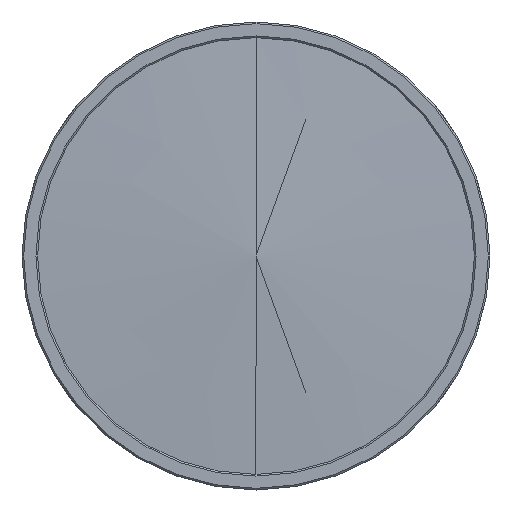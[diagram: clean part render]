
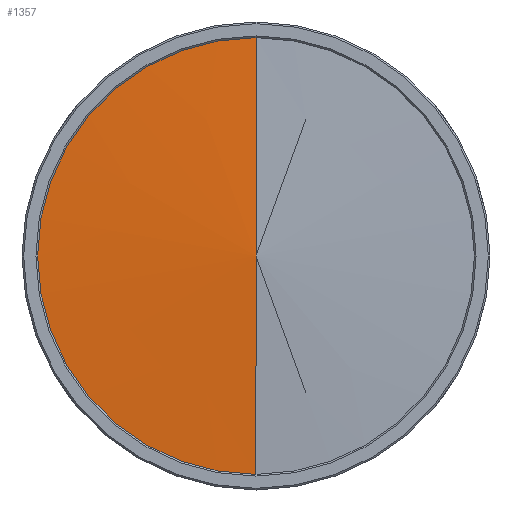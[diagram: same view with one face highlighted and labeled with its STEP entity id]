
A CAD part, left-side view. The second image highlights one B-rep face of the part: STEP entity #1357.
In plain terms, the highlighted conical face has half-angle 87.213 degrees and reference radius 40.421 mm.
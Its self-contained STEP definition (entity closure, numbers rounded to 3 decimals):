
#34 = CARTESIAN_POINT ( 'NONE',  ( 0., 0., 0. ) ) ;
#106 = DIRECTION ( 'NONE',  ( 0.049, 0., -0.999 ) ) ;
#211 = EDGE_CURVE ( 'NONE', #1439, #2678, #2648, .T. ) ;
#295 = ORIENTED_EDGE ( 'NONE', *, *, #2497, .F. ) ;
#371 = CARTESIAN_POINT ( 'NONE',  ( 1.968, 0., 40.421 ) ) ;
#384 = AXIS2_PLACEMENT_3D ( 'NONE', #2557, #2745, #2760 ) ;
#463 = VECTOR ( 'NONE', #1898, 1000. ) ;
#559 = CARTESIAN_POINT ( 'NONE',  ( 1.908, 0., 39.2 ) ) ;
#710 = EDGE_CURVE ( 'NONE', #1793, #2678, #1820, .T. ) ;
#907 = ORIENTED_EDGE ( 'NONE', *, *, #710, .F. ) ;
#1145 = VECTOR ( 'NONE', #106, 1000. ) ;
#1357 = ADVANCED_FACE ( 'NONE', ( #1378 ), #2803, .T. ) ;
#1378 = FACE_OUTER_BOUND ( 'NONE', #2388, .T. ) ;
#1434 = DIRECTION ( 'NONE',  ( 1., 0., 0. ) ) ;
#1439 = VERTEX_POINT ( 'NONE', #34 ) ;
#1754 = LINE ( 'NONE', #2455, #1145 ) ;
#1793 = VERTEX_POINT ( 'NONE', #2251 ) ;
#1820 = CIRCLE ( 'NONE', #2514, 39.2 ) ;
#1898 = DIRECTION ( 'NONE',  ( 0.049, 0., 0.999 ) ) ;
#1986 = ORIENTED_EDGE ( 'NONE', *, *, #211, .T. ) ;
#2100 = DIRECTION ( 'NONE',  ( 0., 0., -1. ) ) ;
#2251 = CARTESIAN_POINT ( 'NONE',  ( 1.908, 0., -39.2 ) ) ;
#2311 = CARTESIAN_POINT ( 'NONE',  ( 1.908, 0., 0. ) ) ;
#2388 = EDGE_LOOP ( 'NONE', ( #295, #1986, #907 ) ) ;
#2455 = CARTESIAN_POINT ( 'NONE',  ( 1.968, 0., -40.421 ) ) ;
#2497 = EDGE_CURVE ( 'NONE', #1439, #1793, #1754, .T. ) ;
#2514 = AXIS2_PLACEMENT_3D ( 'NONE', #2311, #1434, #2100 ) ;
#2557 = CARTESIAN_POINT ( 'NONE',  ( 1.968, 0., 0. ) ) ;
#2648 = LINE ( 'NONE', #371, #463 ) ;
#2678 = VERTEX_POINT ( 'NONE', #559 ) ;
#2745 = DIRECTION ( 'NONE',  ( 1., 0., 0. ) ) ;
#2760 = DIRECTION ( 'NONE',  ( 0., 0., -1. ) ) ;
#2803 = CONICAL_SURFACE ( 'NONE', #384, 40.421, 1.522 ) ;
